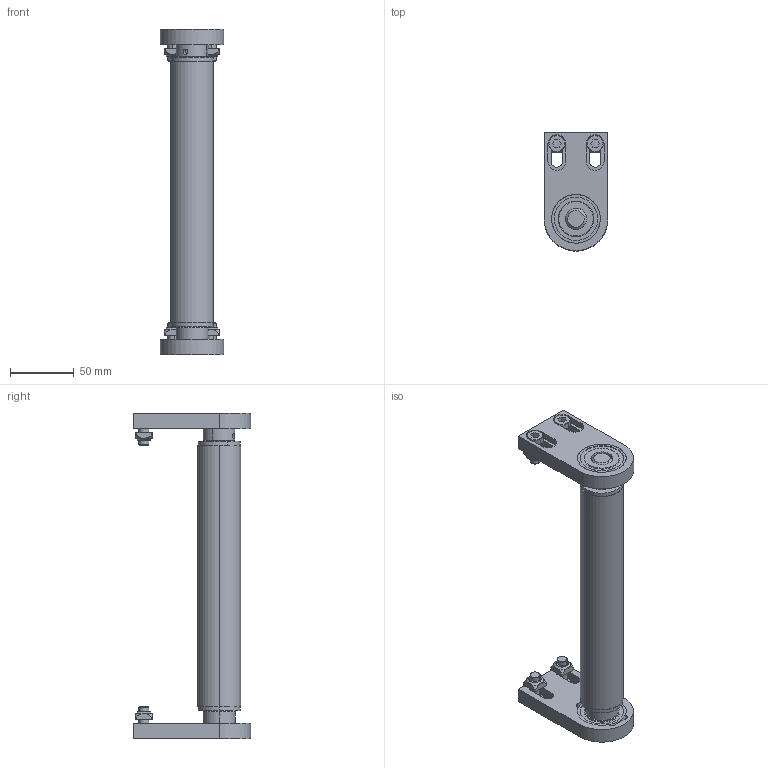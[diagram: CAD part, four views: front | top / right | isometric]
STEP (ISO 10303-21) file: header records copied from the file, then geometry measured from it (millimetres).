
FILE_DESCRIPTION (( 'STEP AP203' ), '1' );
FILE_NAME ('084.050.KSS.200.STEP', '2019-07-30T06:49:35', ( '' ), ( '' ), 'SwSTEP 2.0', 'SolidWorks 2018', '' );
FILE_SCHEMA (( 'CONFIG_CONTROL_DESIGN' ));
Length unit declared in the file: millimetre
Products named in the file (8): 084.302.000 DADI ALUSIC 13x13-1_084.302.004; 084.802.017_084.802.017; 084.050.KSS.200; 084.802.028; 084.802.013-2; 084.802.029-205; 084.301.000 VITI ALUSIC_084.301.003; 084.802.014
Assembly tree (17 placements, depth 2):
  084.050.KSS.200
    084.802.029-205
    084.301.000 VITI ALUSIC_084.301.003  x4
    084.302.000 DADI ALUSIC 13x13-1_084.302.004  x4
    084.802.017_084.802.017  x2
    084.802.028  x2
    084.802.014  x2
    084.802.013-2  x2
Bounding box: 50 x 92.5 x 255 mm (x, y, z)
Volume: 202461.1 mm3; surface area: 114516.1 mm2
Topology: 19 solids, 21 shells, 384 faces, 910 edges, 582 vertices
Faces by surface type: plane 142, cylinder 134, torus 52, cone 32, bspline 16, sphere 8
Entity records: 5980 total; most frequent: CARTESIAN_POINT 1263, DIRECTION 820, ORIENTED_EDGE 700, EDGE_CURVE 350, AXIS2_PLACEMENT_3D 339, VERTEX_POINT 224, EDGE_LOOP 182, CIRCLE 170
